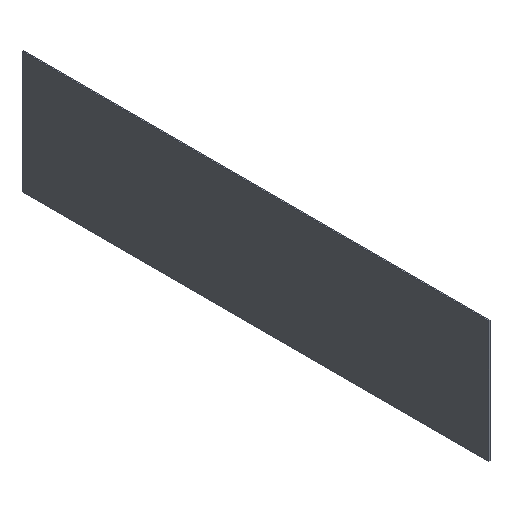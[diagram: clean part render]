
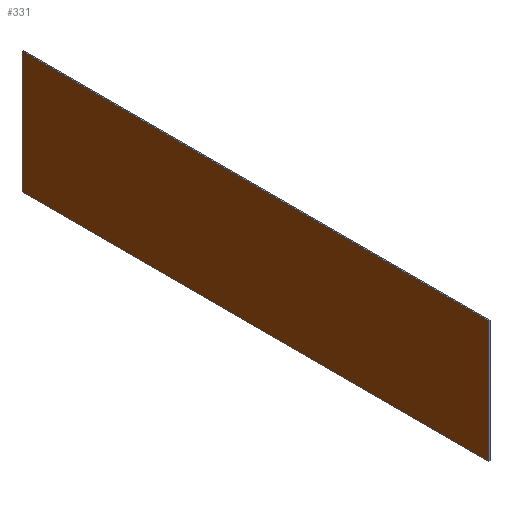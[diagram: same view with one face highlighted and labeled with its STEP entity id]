
A CAD part, isometric view. The second image highlights one B-rep face of the part: STEP entity #331.
In plain terms, the highlighted planar face has unit normal (-1, 0, 0).
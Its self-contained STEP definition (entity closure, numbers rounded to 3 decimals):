
#22 = VERTEX_POINT('',#23);
#23 = CARTESIAN_POINT('',(1725.,-1725.,2400.));
#32 = PLANE('',#33);
#33 = AXIS2_PLACEMENT_3D('',#34,#35,#36);
#34 = CARTESIAN_POINT('',(1725.,-1725.,2400.));
#35 = DIRECTION('',(0.,0.,1.));
#36 = DIRECTION('',(0.,1.,0.));
#44 = PLANE('',#45);
#45 = AXIS2_PLACEMENT_3D('',#46,#47,#48);
#46 = CARTESIAN_POINT('',(1725.,-1725.,3300.));
#47 = DIRECTION('',(-0.,1.,0.));
#48 = DIRECTION('',(0.,0.,-1.));
#85 = VERTEX_POINT('',#86);
#86 = CARTESIAN_POINT('',(1725.,1725.,2400.));
#100 = PLANE('',#101);
#101 = AXIS2_PLACEMENT_3D('',#102,#103,#104);
#102 = CARTESIAN_POINT('',(1725.,1725.,2400.));
#103 = DIRECTION('',(0.,-1.,0.));
#104 = DIRECTION('',(0.,0.,1.));
#112 = EDGE_CURVE('',#22,#85,#113,.T.);
#113 = SURFACE_CURVE('',#114,(#118,#125),.PCURVE_S1.);
#114 = LINE('',#115,#116);
#115 = CARTESIAN_POINT('',(1725.,-1725.,2400.));
#116 = VECTOR('',#117,1.);
#117 = DIRECTION('',(0.,1.,0.));
#118 = PCURVE('',#32,#119);
#119 = DEFINITIONAL_REPRESENTATION('',(#120),#124);
#120 = LINE('',#121,#122);
#121 = CARTESIAN_POINT('',(0.,0.));
#122 = VECTOR('',#123,1.);
#123 = DIRECTION('',(1.,0.));
#124 = ( GEOMETRIC_REPRESENTATION_CONTEXT(2) 
PARAMETRIC_REPRESENTATION_CONTEXT() REPRESENTATION_CONTEXT('2D SPACE',''
  ) );
#125 = PCURVE('',#126,#131);
#126 = PLANE('',#127);
#127 = AXIS2_PLACEMENT_3D('',#128,#129,#130);
#128 = CARTESIAN_POINT('',(1725.,0.,2850.));
#129 = DIRECTION('',(1.,0.,0.));
#130 = DIRECTION('',(-0.,0.,1.));
#131 = DEFINITIONAL_REPRESENTATION('',(#132),#136);
#132 = LINE('',#133,#134);
#133 = CARTESIAN_POINT('',(-450.,1725.));
#134 = VECTOR('',#135,1.);
#135 = DIRECTION('',(0.,-1.));
#136 = ( GEOMETRIC_REPRESENTATION_CONTEXT(2) 
PARAMETRIC_REPRESENTATION_CONTEXT() REPRESENTATION_CONTEXT('2D SPACE',''
  ) );
#166 = VERTEX_POINT('',#167);
#167 = CARTESIAN_POINT('',(1725.,1725.,3300.));
#181 = PLANE('',#182);
#182 = AXIS2_PLACEMENT_3D('',#183,#184,#185);
#183 = CARTESIAN_POINT('',(1725.,1725.,3300.));
#184 = DIRECTION('',(0.,0.,-1.));
#185 = DIRECTION('',(0.,-1.,0.));
#193 = EDGE_CURVE('',#85,#166,#194,.T.);
#194 = SURFACE_CURVE('',#195,(#199,#206),.PCURVE_S1.);
#195 = LINE('',#196,#197);
#196 = CARTESIAN_POINT('',(1725.,1725.,2400.));
#197 = VECTOR('',#198,1.);
#198 = DIRECTION('',(0.,0.,1.));
#199 = PCURVE('',#100,#200);
#200 = DEFINITIONAL_REPRESENTATION('',(#201),#205);
#201 = LINE('',#202,#203);
#202 = CARTESIAN_POINT('',(0.,0.));
#203 = VECTOR('',#204,1.);
#204 = DIRECTION('',(1.,0.));
#205 = ( GEOMETRIC_REPRESENTATION_CONTEXT(2) 
PARAMETRIC_REPRESENTATION_CONTEXT() REPRESENTATION_CONTEXT('2D SPACE',''
  ) );
#206 = PCURVE('',#126,#207);
#207 = DEFINITIONAL_REPRESENTATION('',(#208),#212);
#208 = LINE('',#209,#210);
#209 = CARTESIAN_POINT('',(-450.,-1725.));
#210 = VECTOR('',#211,1.);
#211 = DIRECTION('',(1.,0.));
#212 = ( GEOMETRIC_REPRESENTATION_CONTEXT(2) 
PARAMETRIC_REPRESENTATION_CONTEXT() REPRESENTATION_CONTEXT('2D SPACE',''
  ) );
#242 = VERTEX_POINT('',#243);
#243 = CARTESIAN_POINT('',(1725.,-1725.,3300.));
#264 = EDGE_CURVE('',#166,#242,#265,.T.);
#265 = SURFACE_CURVE('',#266,(#270,#277),.PCURVE_S1.);
#266 = LINE('',#267,#268);
#267 = CARTESIAN_POINT('',(1725.,1725.,3300.));
#268 = VECTOR('',#269,1.);
#269 = DIRECTION('',(0.,-1.,0.));
#270 = PCURVE('',#181,#271);
#271 = DEFINITIONAL_REPRESENTATION('',(#272),#276);
#272 = LINE('',#273,#274);
#273 = CARTESIAN_POINT('',(0.,-0.));
#274 = VECTOR('',#275,1.);
#275 = DIRECTION('',(1.,0.));
#276 = ( GEOMETRIC_REPRESENTATION_CONTEXT(2) 
PARAMETRIC_REPRESENTATION_CONTEXT() REPRESENTATION_CONTEXT('2D SPACE',''
  ) );
#277 = PCURVE('',#126,#278);
#278 = DEFINITIONAL_REPRESENTATION('',(#279),#283);
#279 = LINE('',#280,#281);
#280 = CARTESIAN_POINT('',(450.,-1725.));
#281 = VECTOR('',#282,1.);
#282 = DIRECTION('',(0.,1.));
#283 = ( GEOMETRIC_REPRESENTATION_CONTEXT(2) 
PARAMETRIC_REPRESENTATION_CONTEXT() REPRESENTATION_CONTEXT('2D SPACE',''
  ) );
#311 = EDGE_CURVE('',#242,#22,#312,.T.);
#312 = SURFACE_CURVE('',#313,(#317,#324),.PCURVE_S1.);
#313 = LINE('',#314,#315);
#314 = CARTESIAN_POINT('',(1725.,-1725.,3300.));
#315 = VECTOR('',#316,1.);
#316 = DIRECTION('',(0.,0.,-1.));
#317 = PCURVE('',#44,#318);
#318 = DEFINITIONAL_REPRESENTATION('',(#319),#323);
#319 = LINE('',#320,#321);
#320 = CARTESIAN_POINT('',(0.,0.));
#321 = VECTOR('',#322,1.);
#322 = DIRECTION('',(1.,0.));
#323 = ( GEOMETRIC_REPRESENTATION_CONTEXT(2) 
PARAMETRIC_REPRESENTATION_CONTEXT() REPRESENTATION_CONTEXT('2D SPACE',''
  ) );
#324 = PCURVE('',#126,#325);
#325 = DEFINITIONAL_REPRESENTATION('',(#326),#330);
#326 = LINE('',#327,#328);
#327 = CARTESIAN_POINT('',(450.,1725.));
#328 = VECTOR('',#329,1.);
#329 = DIRECTION('',(-1.,0.));
#330 = ( GEOMETRIC_REPRESENTATION_CONTEXT(2) 
PARAMETRIC_REPRESENTATION_CONTEXT() REPRESENTATION_CONTEXT('2D SPACE',''
  ) );
#331 = ADVANCED_FACE('',(#332),#126,.F.);
#332 = FACE_BOUND('',#333,.F.);
#333 = EDGE_LOOP('',(#334,#335,#336,#337));
#334 = ORIENTED_EDGE('',*,*,#112,.T.);
#335 = ORIENTED_EDGE('',*,*,#193,.T.);
#336 = ORIENTED_EDGE('',*,*,#264,.T.);
#337 = ORIENTED_EDGE('',*,*,#311,.T.);
